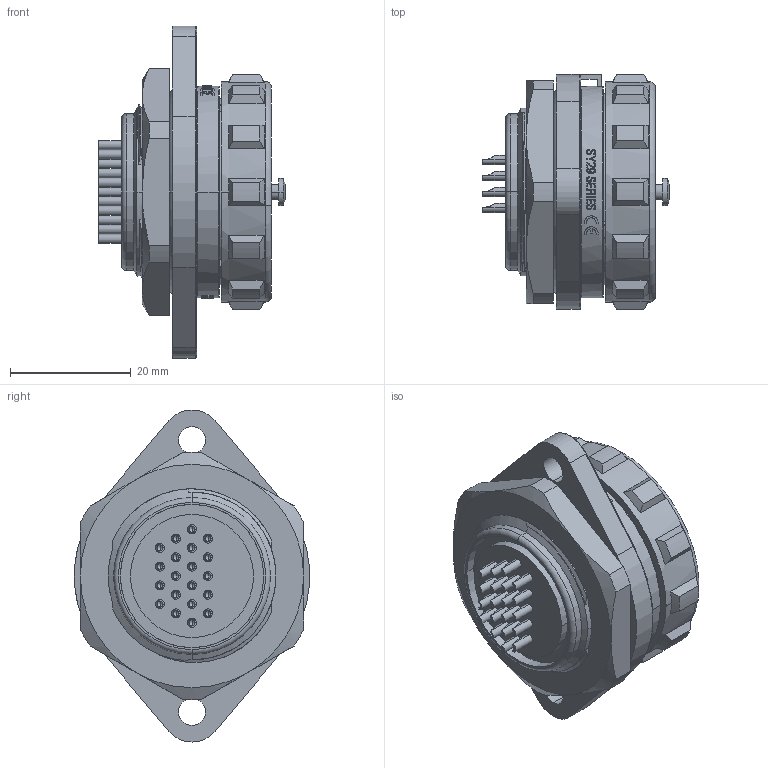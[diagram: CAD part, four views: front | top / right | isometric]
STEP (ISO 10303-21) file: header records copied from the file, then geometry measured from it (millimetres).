
FILE_DESCRIPTION((''),'2;1');
FILE_NAME('PRT0001','2021-03-22T',('Administrator'),(''),'CREO PARAMETRIC BY PTC INC, 2016130','CREO PARAMETRIC BY PTC INC, 2016130','');
FILE_SCHEMA(('AUTOMOTIVE_DESIGN { 1 0 10303 214 1 1 1 1 }'));
Length unit declared in the file: millimetre
Products named in the file (1): PRT0001
Bounding box: 30.9 x 38.99 x 55 mm (x, y, z)
Volume: 22558.1 mm3; surface area: 12372.6 mm2
Topology: 1 solids, 2 shells, 840 faces, 2133 edges, 1338 vertices
Faces by surface type: plane 267, cylinder 245, extrusion 157, cone 133, torus 18, bspline 18, sphere 2
Entity records: 28972 total; most frequent: CARTESIAN_POINT 9356, ORIENTED_EDGE 4186, DIRECTION 3740, EDGE_CURVE 2093, VERTEX_POINT 1338, AXIS2_PLACEMENT_3D 1333, VECTOR 1074, EDGE_LOOP 933
